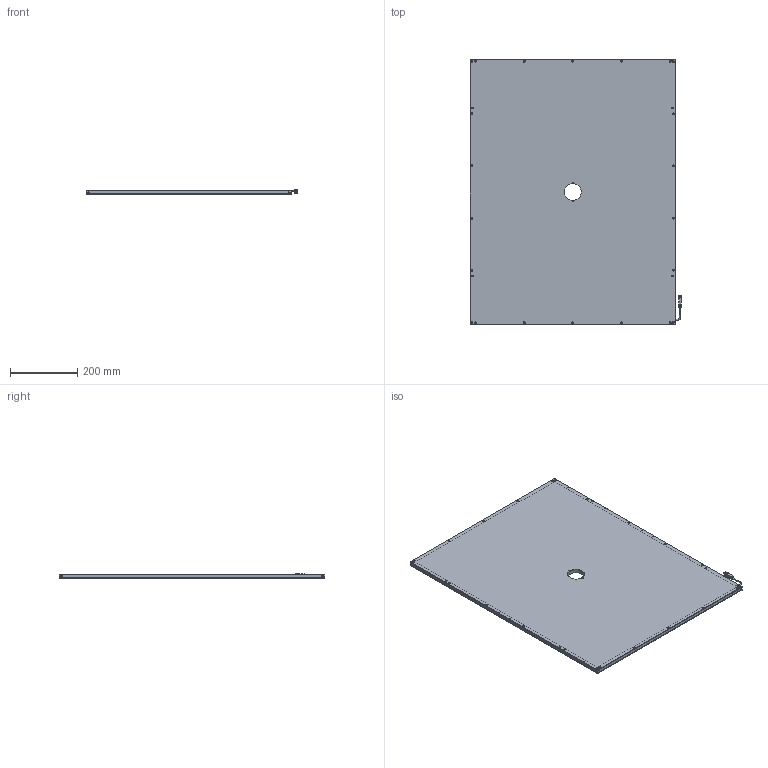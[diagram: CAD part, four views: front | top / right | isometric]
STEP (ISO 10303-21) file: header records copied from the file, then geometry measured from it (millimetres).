
FILE_DESCRIPTION (( 'STEP AP203' ), '1' );
FILE_NAME ('CRT-KFLC750570Y50-¼òÒ×3DÍ¼.STEP', '2021-11-30T06:03:17', ( 'Admin' ), ( '' ), 'SwSTEP 2.0', 'SolidWorks 2018', '' );
FILE_SCHEMA (( 'CONFIG_CONTROL_DESIGN' ));
Length unit declared in the file: millimetre
Products named in the file (1): CRT-KFLC750570Y50-潠眢3D芞
Bounding box: 629.45 x 790 x 14.85 mm (x, y, z)
Surface area: 1536588.2 mm2 (no closed solid volume)
Topology: 0 solids, 20 shells, 267 faces, 963 edges, 703 vertices
Faces by surface type: cylinder 118, plane 94, cone 51, bspline 4
Entity records: 11029 total; most frequent: CARTESIAN_POINT 2559, DIRECTION 1831, ORIENTED_EDGE 1469, EDGE_CURVE 963, VERTEX_POINT 703, AXIS2_PLACEMENT_3D 655, LINE 521, VECTOR 521
